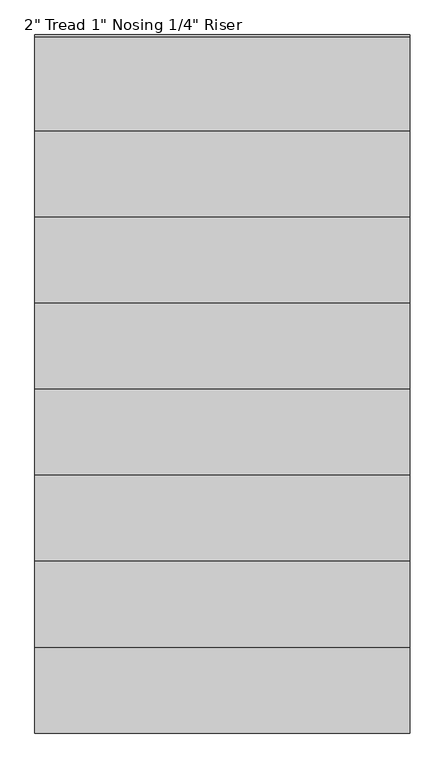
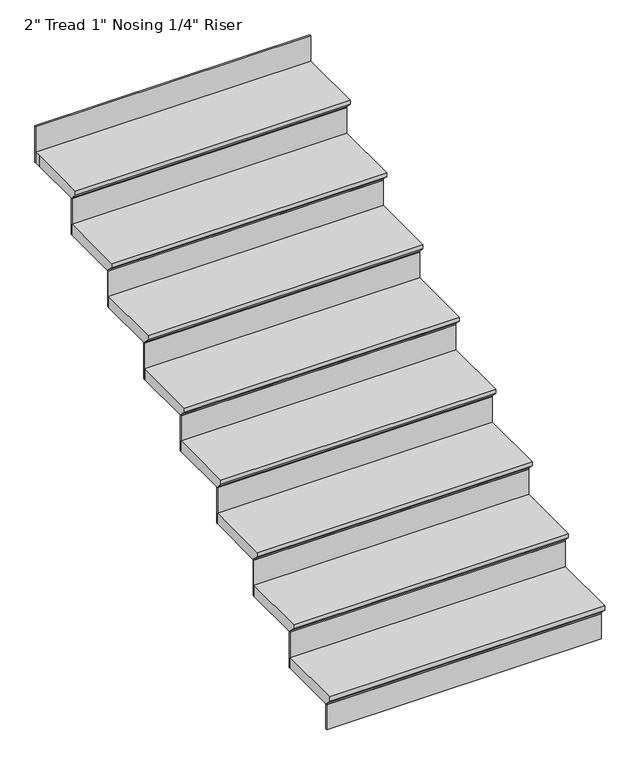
"""IFC4 building model written with IfcOpenShell, lengths in millimetres: stair flight geometry."""

from ifc_helpers import new_model, si_unit, origin, place, context, project, spatial, faceted_brep, source, transform, mapped, element, save


def stair_flight_be3a43e4(model_context):
    return source(origin(), model_context, "Body", "Brep", [
        faceted_brep([(-2479.317382, -3106.7224648, 150.2833333), (-2479.317382, -3106.7224648, 169.3333333), (-3698.517382, -3106.7224648, 169.3333333), (-3698.517382, -3106.7224648, 150.2833333), (-2479.317382, -3081.3224648, 124.8833333), (-3698.517382, -3081.3224648, 124.8833333), (-2479.317382, -2801.9224648, 169.3333333), (-3698.517382, -2801.9224648, 169.3333333), (-3698.517382, -3081.3224648, 118.5333333), (-3698.517382, -2801.9224648, 118.5333333), (-2479.317382, -2801.9224648, 118.5333333), (-2479.317382, -3081.3224648, 118.5333333)], [[[0, 1, 2, 3]], [[4, 0, 3, 5]], [[2, 1, 6, 7]], [[8, 9, 10, 11]], [[2, 7, 9, 8, 5, 3]], [[8, 11, 4, 5]], [[6, 1, 0, 4, 11, 10]], [[7, 6, 10, 9]]]),
        faceted_brep([(-2479.317382, -3081.3224648, 118.5333333), (-2479.317382, -3081.3224648, 0.0), (-2479.317382, -3074.9724648, 0.0), (-2479.317382, -3074.9724648, 118.5333333), (-3698.517382, -3081.3224648, 118.5333333), (-3698.517382, -3074.9724648, 118.5333333), (-3698.517382, -3074.9724648, 0.0), (-3698.517382, -3081.3224648, 0.0)], [[[0, 1, 2, 3]], [[4, 5, 6, 7]], [[1, 0, 4, 7]], [[2, 1, 7, 6]], [[3, 2, 6, 5]], [[0, 3, 5, 4]]]),
        faceted_brep([(-2479.317382, -2801.9224648, 287.8666667), (-2479.317382, -2801.9224648, 118.5333333), (-2479.317382, -2795.5724648, 118.5333333), (-2479.317382, -2795.5724648, 287.8666667), (-3698.517382, -2801.9224648, 287.8666667), (-3698.517382, -2795.5724648, 287.8666667), (-3698.517382, -2795.5724648, 118.5333333), (-3698.517382, -2801.9224648, 118.5333333)], [[[0, 1, 2, 3]], [[4, 5, 6, 7]], [[1, 0, 4, 7]], [[2, 1, 7, 6]], [[3, 2, 6, 5]], [[0, 3, 5, 4]]]),
        faceted_brep([(-3698.517382, -2827.3224648, 338.6666667), (-2479.317382, -2827.3224648, 338.6666667), (-2479.317382, -2522.5224648, 338.6666667), (-3698.517382, -2522.5224648, 338.6666667), (-3698.517382, -2801.9224648, 287.8666667), (-3698.517382, -2522.5224648, 287.8666667), (-2479.317382, -2522.5224648, 287.8666667), (-2479.317382, -2801.9224648, 287.8666667), (-3698.517382, -2801.9224648, 294.2166667), (-3698.517382, -2827.3224648, 319.6166667), (-2479.317382, -2801.9224648, 294.2166667), (-2479.317382, -2827.3224648, 319.6166667)], [[[0, 1, 2, 3]], [[4, 5, 6, 7]], [[0, 3, 5, 4, 8, 9]], [[4, 7, 10, 8]], [[2, 1, 11, 10, 7, 6]], [[3, 2, 6, 5]], [[11, 1, 0, 9]], [[10, 11, 9, 8]]]),
        faceted_brep([(-2479.317382, -2522.5224648, 457.2), (-2479.317382, -2522.5224648, 287.8666667), (-2479.317382, -2516.1724648, 287.8666667), (-2479.317382, -2516.1724648, 457.2), (-3698.517382, -2522.5224648, 457.2), (-3698.517382, -2516.1724648, 457.2), (-3698.517382, -2516.1724648, 287.8666667), (-3698.517382, -2522.5224648, 287.8666667)], [[[0, 1, 2, 3]], [[4, 5, 6, 7]], [[1, 0, 4, 7]], [[2, 1, 7, 6]], [[3, 2, 6, 5]], [[0, 3, 5, 4]]]),
        faceted_brep([(-3698.517382, -2547.9224648, 508.0), (-2479.317382, -2547.9224648, 508.0), (-2479.317382, -2243.1224648, 508.0), (-3698.517382, -2243.1224648, 508.0), (-3698.517382, -2522.5224648, 457.2), (-3698.517382, -2243.1224648, 457.2), (-2479.317382, -2243.1224648, 457.2), (-2479.317382, -2522.5224648, 457.2), (-3698.517382, -2522.5224648, 463.55), (-3698.517382, -2547.9224648, 488.95), (-2479.317382, -2522.5224648, 463.55), (-2479.317382, -2547.9224648, 488.95)], [[[0, 1, 2, 3]], [[4, 5, 6, 7]], [[0, 3, 5, 4, 8, 9]], [[4, 7, 10, 8]], [[2, 1, 11, 10, 7, 6]], [[3, 2, 6, 5]], [[11, 1, 0, 9]], [[10, 11, 9, 8]]]),
        faceted_brep([(-2479.317382, -2243.1224648, 626.5333333), (-2479.317382, -2243.1224648, 457.2), (-2479.317382, -2236.7724648, 457.2), (-2479.317382, -2236.7724648, 626.5333333), (-3698.517382, -2243.1224648, 626.5333333), (-3698.517382, -2236.7724648, 626.5333333), (-3698.517382, -2236.7724648, 457.2), (-3698.517382, -2243.1224648, 457.2)], [[[0, 1, 2, 3]], [[4, 5, 6, 7]], [[1, 0, 4, 7]], [[2, 1, 7, 6]], [[3, 2, 6, 5]], [[0, 3, 5, 4]]]),
        faceted_brep([(-3698.517382, -2268.5224648, 677.3333333), (-2479.317382, -2268.5224648, 677.3333333), (-2479.317382, -1963.7224648, 677.3333333), (-3698.517382, -1963.7224648, 677.3333333), (-3698.517382, -2243.1224648, 626.5333333), (-3698.517382, -1963.7224648, 626.5333333), (-2479.317382, -1963.7224648, 626.5333333), (-2479.317382, -2243.1224648, 626.5333333), (-3698.517382, -2243.1224648, 632.8833333), (-3698.517382, -2268.5224648, 658.2833333), (-2479.317382, -2243.1224648, 632.8833333), (-2479.317382, -2268.5224648, 658.2833333)], [[[0, 1, 2, 3]], [[4, 5, 6, 7]], [[0, 3, 5, 4, 8, 9]], [[4, 7, 10, 8]], [[2, 1, 11, 10, 7, 6]], [[3, 2, 6, 5]], [[11, 1, 0, 9]], [[10, 11, 9, 8]]]),
        faceted_brep([(-2479.317382, -1963.7224648, 795.8666667), (-2479.317382, -1963.7224648, 626.5333333), (-2479.317382, -1957.3724648, 626.5333333), (-2479.317382, -1957.3724648, 795.8666667), (-3698.517382, -1963.7224648, 795.8666667), (-3698.517382, -1957.3724648, 795.8666667), (-3698.517382, -1957.3724648, 626.5333333), (-3698.517382, -1963.7224648, 626.5333333)], [[[0, 1, 2, 3]], [[4, 5, 6, 7]], [[1, 0, 4, 7]], [[2, 1, 7, 6]], [[3, 2, 6, 5]], [[0, 3, 5, 4]]]),
        faceted_brep([(-3698.517382, -1989.1224648, 846.6666667), (-2479.317382, -1989.1224648, 846.6666667), (-2479.317382, -1684.3224648, 846.6666667), (-3698.517382, -1684.3224648, 846.6666667), (-3698.517382, -1963.7224648, 795.8666667), (-3698.517382, -1684.3224648, 795.8666667), (-2479.317382, -1684.3224648, 795.8666667), (-2479.317382, -1963.7224648, 795.8666667), (-3698.517382, -1963.7224648, 802.2166667), (-3698.517382, -1989.1224648, 827.6166667), (-2479.317382, -1963.7224648, 802.2166667), (-2479.317382, -1989.1224648, 827.6166667)], [[[0, 1, 2, 3]], [[4, 5, 6, 7]], [[0, 3, 5, 4, 8, 9]], [[4, 7, 10, 8]], [[2, 1, 11, 10, 7, 6]], [[3, 2, 6, 5]], [[11, 1, 0, 9]], [[10, 11, 9, 8]]]),
        faceted_brep([(-2479.317382, -1684.3224648, 965.2), (-2479.317382, -1684.3224648, 795.8666667), (-2479.317382, -1677.9724648, 795.8666667), (-2479.317382, -1677.9724648, 965.2), (-3698.517382, -1684.3224648, 965.2), (-3698.517382, -1677.9724648, 965.2), (-3698.517382, -1677.9724648, 795.8666667), (-3698.517382, -1684.3224648, 795.8666667)], [[[0, 1, 2, 3]], [[4, 5, 6, 7]], [[1, 0, 4, 7]], [[2, 1, 7, 6]], [[3, 2, 6, 5]], [[0, 3, 5, 4]]]),
        faceted_brep([(-3698.517382, -1709.7224648, 1016.0), (-2479.317382, -1709.7224648, 1016.0), (-2479.317382, -1404.9224648, 1016.0), (-3698.517382, -1404.9224648, 1016.0), (-3698.517382, -1684.3224648, 965.2), (-3698.517382, -1404.9224648, 965.2), (-2479.317382, -1404.9224648, 965.2), (-2479.317382, -1684.3224648, 965.2), (-3698.517382, -1684.3224648, 971.55), (-3698.517382, -1709.7224648, 996.95), (-2479.317382, -1684.3224648, 971.55), (-2479.317382, -1709.7224648, 996.95)], [[[0, 1, 2, 3]], [[4, 5, 6, 7]], [[0, 3, 5, 4, 8, 9]], [[4, 7, 10, 8]], [[2, 1, 11, 10, 7, 6]], [[3, 2, 6, 5]], [[11, 1, 0, 9]], [[10, 11, 9, 8]]]),
        faceted_brep([(-2479.317382, -1404.9224648, 1134.5333333), (-2479.317382, -1404.9224648, 965.2), (-2479.317382, -1398.5724648, 965.2), (-2479.317382, -1398.5724648, 1134.5333333), (-3698.517382, -1404.9224648, 1134.5333333), (-3698.517382, -1398.5724648, 1134.5333333), (-3698.517382, -1398.5724648, 965.2), (-3698.517382, -1404.9224648, 965.2)], [[[0, 1, 2, 3]], [[4, 5, 6, 7]], [[1, 0, 4, 7]], [[2, 1, 7, 6]], [[3, 2, 6, 5]], [[0, 3, 5, 4]]]),
        faceted_brep([(-3698.517382, -1430.3224648, 1185.3333333), (-2479.317382, -1430.3224648, 1185.3333333), (-2479.317382, -1125.5224648, 1185.3333333), (-3698.517382, -1125.5224648, 1185.3333333), (-3698.517382, -1404.9224648, 1134.5333333), (-3698.517382, -1125.5224648, 1134.5333333), (-2479.317382, -1125.5224648, 1134.5333333), (-2479.317382, -1404.9224648, 1134.5333333), (-3698.517382, -1404.9224648, 1140.8833333), (-3698.517382, -1430.3224648, 1166.2833333), (-2479.317382, -1404.9224648, 1140.8833333), (-2479.317382, -1430.3224648, 1166.2833333)], [[[0, 1, 2, 3]], [[4, 5, 6, 7]], [[0, 3, 5, 4, 8, 9]], [[4, 7, 10, 8]], [[2, 1, 11, 10, 7, 6]], [[3, 2, 6, 5]], [[11, 1, 0, 9]], [[10, 11, 9, 8]]]),
        faceted_brep([(-2479.317382, -846.1224648, 1473.2), (-2479.317382, -846.1224648, 1303.8666667), (-2479.317382, -839.7724648, 1303.8666667), (-2479.317382, -839.7724648, 1473.2), (-3698.517382, -846.1224648, 1473.2), (-3698.517382, -839.7724648, 1473.2), (-3698.517382, -839.7724648, 1303.8666667), (-3698.517382, -846.1224648, 1303.8666667)], [[[0, 1, 2, 3]], [[4, 5, 6, 7]], [[1, 0, 4, 7]], [[2, 1, 7, 6]], [[3, 2, 6, 5]], [[0, 3, 5, 4]]]),
        faceted_brep([(-2479.317382, -1125.5224648, 1303.8666667), (-2479.317382, -1125.5224648, 1134.5333333), (-2479.317382, -1119.1724648, 1134.5333333), (-2479.317382, -1119.1724648, 1303.8666667), (-3698.517382, -1125.5224648, 1303.8666667), (-3698.517382, -1119.1724648, 1303.8666667), (-3698.517382, -1119.1724648, 1134.5333333), (-3698.517382, -1125.5224648, 1134.5333333)], [[[0, 1, 2, 3]], [[4, 5, 6, 7]], [[1, 0, 4, 7]], [[2, 1, 7, 6]], [[3, 2, 6, 5]], [[0, 3, 5, 4]]]),
        faceted_brep([(-3698.517382, -846.1224648, 1354.6666667), (-3698.517382, -871.5224648, 1354.6666667), (-3698.517382, -1150.9224648, 1354.6666667), (-2479.317382, -1150.9224648, 1354.6666667), (-2479.317382, -871.5224648, 1354.6666667), (-2479.317382, -846.1224648, 1354.6666667), (-3698.517382, -871.5224648, 1303.8666667), (-3698.517382, -846.1224648, 1303.8666667), (-2479.317382, -846.1224648, 1303.8666667), (-2479.317382, -871.5224648, 1303.8666667), (-2479.317382, -1125.5224648, 1303.8666667), (-3698.517382, -1125.5224648, 1303.8666667), (-3698.517382, -1125.5224648, 1310.2166667), (-3698.517382, -1150.9224648, 1335.6166667), (-2479.317382, -1125.5224648, 1310.2166667), (-2479.317382, -1150.9224648, 1335.6166667)], [[[0, 1, 2, 3, 4, 5]], [[6, 7, 8, 9, 10, 11]], [[1, 0, 7, 6]], [[2, 1, 6, 11, 12, 13]], [[11, 10, 14, 12]], [[4, 3, 15, 14, 10, 9]], [[5, 4, 9, 8]], [[0, 5, 8, 7]], [[15, 3, 2, 13]], [[14, 15, 13, 12]]]),
    ])


if __name__ == "__main__":
    model = new_model("IFC4")
    model_context = context("Model", 3, world=origin())
    ifc_project = project(units=[si_unit("LENGTHUNIT", "METRE", prefix="MILLI")], contexts=[model_context])
    site = spatial("IfcSite", under=ifc_project)
    building = spatial("IfcBuilding", under=site)
    placement = place(None, origin())
    stair_flight_shape = stair_flight_be3a43e4(model_context)
    element("IfcStairFlight", 1, ObjectType="2\" Tread 1\" Nosing 1/4\" Riser", at=placement, inside=building, context=model_context, shape_type="MappedRepresentation", body=[
        mapped(stair_flight_shape, transform((0.0, 0.0, 0.0), x_axis=(1.0, 0.0, 0.0), y_axis=(0.0, 1.0, 0.0), z_axis=(0.0, 0.0, 1.0))),
    ])
    save(model, "model.ifc")
